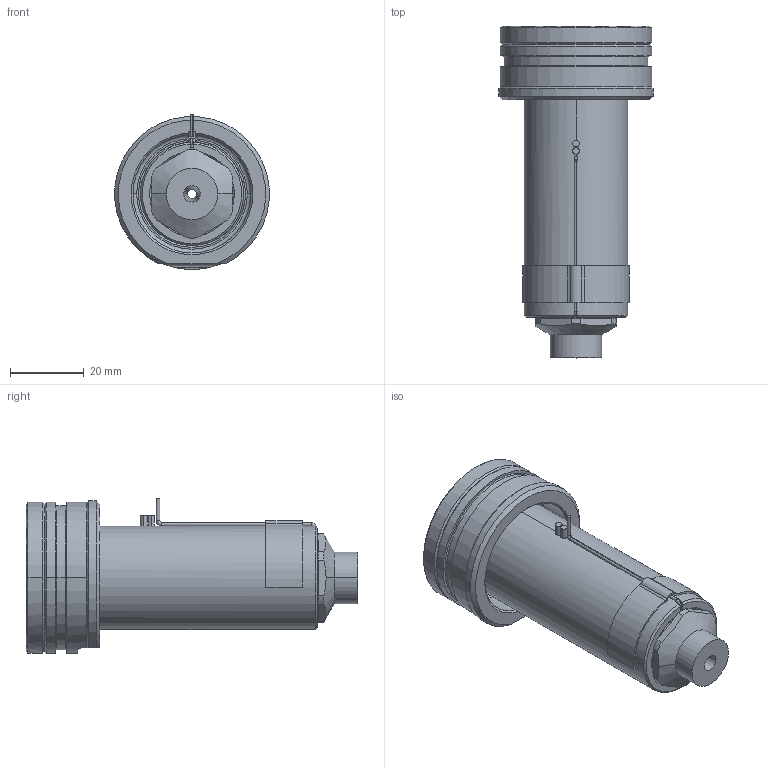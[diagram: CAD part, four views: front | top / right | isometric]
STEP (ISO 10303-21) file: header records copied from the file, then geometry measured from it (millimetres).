
FILE_DESCRIPTION((''),'2;1');
FILE_NAME('EO10_SG_SG_070_SW','2024-02-19T12:23:26',('sundharh'),(''),'CREO PARAMETRIC BY PTC INC, 2023154','CREO PARAMETRIC BY PTC INC, 2023154','');
FILE_SCHEMA(('CONFIG_CONTROL_DESIGN'));
Length unit declared in the file: millimetre
Products named in the file (1): EO10_SG_SG_070_SW
Bounding box: 41.85 x 90 x 42.02 mm (x, y, z)
Volume: 56403.5 mm3; surface area: 16631.4 mm2
Topology: 1 solids, 1 shells, 160 faces, 409 edges, 252 vertices
Faces by surface type: cylinder 63, plane 45, cone 29, torus 17, bspline 3, sphere 3
Entity records: 5497 total; most frequent: CARTESIAN_POINT 1548, DIRECTION 857, ORIENTED_EDGE 810, EDGE_CURVE 405, AXIS2_PLACEMENT_3D 353, VERTEX_POINT 252, CIRCLE 196, EDGE_LOOP 175
